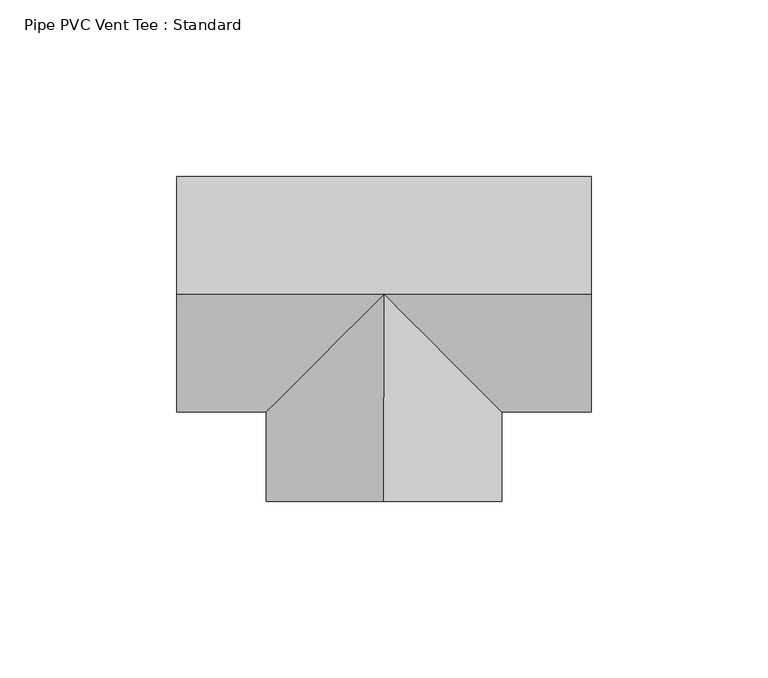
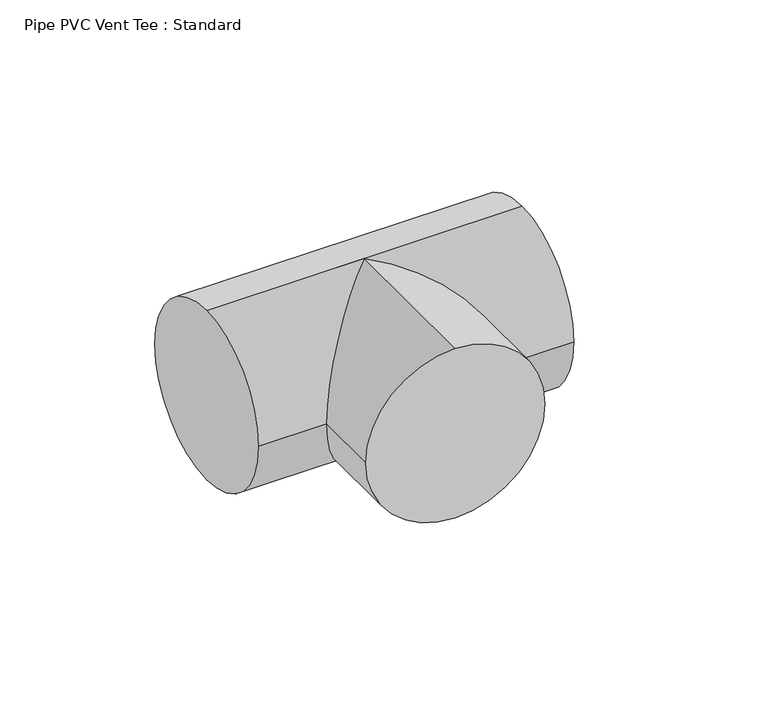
"""IFC4 building model written with IfcOpenShell, lengths in millimetres: pipe fitting geometry, Pipe PVC Vent Tee : Standard."""

from ifc_helpers import new_model, si_unit, frame, origin, place, context, project, spatial, circle_curve, ellipse_curve, source, transform, mapped, element, save
from ifc_brep_helpers import plane_surface, cylinder_surface, advanced_brep


def pipe_pvc_vent_tee_standard_361e4660(model_context):
    return source(origin(), model_context, "Body", "AdvancedBrep", [
        advanced_brep(
        [(-58.7375, 0.0, 33.3375), (-58.7375, 33.3375, 0.0), (-58.7375, 0.0, -33.3375), (-58.7375, -33.3375, 0.0), (58.7375, 0.0, 33.3375), (58.7375, -33.3375, 0.0), (58.7375, 0.0, -33.3375), (58.7375, 33.3375, 0.0), (0.0, 0.0, 33.3375), (0.0, 0.0, -33.3375), (-33.3512743, -33.3375, 0.0), (33.3237314, -33.3375, 0.0), (-0.024264, -58.737495, 33.3375), (-33.3617612, -58.7237235, 0.0), (-0.024264, -58.737495, -33.3375), (33.3132332, -58.7512664, 0.0)],
        [
            (0, 1, circle_curve(frame((-58.7375, 0.0, 0.0), z_axis=(-1.0, 0.0, 0.0), x_axis=(0.0, 1.0, 0.0)), 33.3375)),
            (1, 2, circle_curve(frame((-58.7375, 0.0, 0.0), z_axis=(-1.0, 0.0, 0.0), x_axis=(0.0, 1.0, 0.0)), 33.3375)),
            (2, 3, circle_curve(frame((-58.7375, 0.0, 0.0), z_axis=(-1.0, 0.0, 0.0), x_axis=(0.0, 1.0, 0.0)), 33.3375)),
            (3, 0, circle_curve(frame((-58.7375, 0.0, 0.0), z_axis=(-1.0, 0.0, 0.0), x_axis=(0.0, 1.0, 0.0)), 33.3375)),
            (4, 5, circle_curve(frame((58.7375, 0.0, 0.0), z_axis=(1.0, 0.0, 0.0), x_axis=(0.0, 1.0, 0.0)), 33.3375)),
            (5, 6, circle_curve(frame((58.7375, 0.0, 0.0), z_axis=(1.0, 0.0, 0.0), x_axis=(0.0, 1.0, 0.0)), 33.3375)),
            (6, 7, circle_curve(frame((58.7375, 0.0, 0.0), z_axis=(1.0, 0.0, 0.0), x_axis=(0.0, 1.0, 0.0)), 33.3375)),
            (7, 4, circle_curve(frame((58.7375, 0.0, 0.0), z_axis=(1.0, 0.0, 0.0), x_axis=(0.0, 1.0, 0.0)), 33.3375)),
            (0, 8),
            (8, 4),
            (7, 1),
            (6, 9),
            (9, 2),
            (9, 10, ellipse_curve(frame((0.0, 0.0, 0.0), z_axis=(-0.7069607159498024, 0.7072528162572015, 0.0), x_axis=(-0.7072528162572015, -0.7069607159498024, 0.0)), 47.1560855, 33.3375)),
            (10, 3),
            (5, 11),
            (11, 9, ellipse_curve(frame((0.0, 0.0, 0.0), z_axis=(0.7072528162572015, 0.7069607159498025, 0.0), x_axis=(-0.7069607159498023, 0.7072528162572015, 0.0)), 47.1366098, 33.3375)),
            (10, 8, ellipse_curve(frame((0.0, 0.0, 0.0), z_axis=(-0.7069607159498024, 0.7072528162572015, 0.0), x_axis=(-0.7072528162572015, -0.7069607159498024, 0.0)), 47.1560855, 33.3375)),
            (8, 11, ellipse_curve(frame((0.0, 0.0, 0.0), z_axis=(0.7072528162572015, 0.7069607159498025, 0.0), x_axis=(-0.7069607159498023, 0.7072528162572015, 0.0)), 47.1366098, 33.3375)),
            (12, 13, circle_curve(frame((-0.024264, -58.737495, 0.0), z_axis=(-0.0004130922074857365, -0.9999999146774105, 0.0), x_axis=(0.9999999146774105, -0.0004130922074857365, 0.0)), 33.3375)),
            (13, 14, circle_curve(frame((-0.024264, -58.737495, 0.0), z_axis=(-0.0004130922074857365, -0.9999999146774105, 0.0), x_axis=(0.9999999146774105, -0.0004130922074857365, 0.0)), 33.3375)),
            (14, 15, circle_curve(frame((-0.024264, -58.737495, 0.0), z_axis=(-0.0004130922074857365, -0.9999999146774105, 0.0), x_axis=(0.9999999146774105, -0.0004130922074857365, 0.0)), 33.3375)),
            (15, 12, circle_curve(frame((-0.024264, -58.737495, 0.0), z_axis=(-0.0004130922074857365, -0.9999999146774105, 0.0), x_axis=(0.9999999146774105, -0.0004130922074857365, 0.0)), 33.3375)),
            (15, 11),
            (8, 12),
            (14, 9),
            (13, 10),
        ],
        [
            plane_surface(frame((-58.7375, 0.0, 0.0), z_axis=(-1.0, 0.0, 0.0), x_axis=(0.0, 0.0, 1.0))),
            plane_surface(frame((58.7375, 0.0, 0.0), z_axis=(1.0, 0.0, 0.0), x_axis=(0.0, 0.0, 1.0))),
            cylinder_surface(frame((-58.7375, 0.0, 0.0), z_axis=(-1.0, 0.0, 0.0), x_axis=(0.0, 1.0, 0.0)), 33.3375),
            plane_surface(frame((-0.024264, -58.737495, 0.0), z_axis=(-0.0004130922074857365, -0.9999999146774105, 0.0), x_axis=(0.0, 0.0, 1.0))),
            cylinder_surface(frame((0.0, 0.0, 0.0), z_axis=(0.0004130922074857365, 0.9999999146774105, 0.0), x_axis=(0.9999999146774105, -0.0004130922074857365, 0.0)), 33.3375),
        ],
        [
            (0, [[1, 2, 3, 4]]),
            (1, [[5, 6, 7, 8]]),
            (2, [[-1, 9, 10, -8, 11]]),
            (2, [[-2, -11, -7, 12, 13]]),
            (2, [[-3, -13, 14, 15]]),
            (2, [[-6, 16, 17, -12]]),
            (2, [[-4, -15, 18, -9]]),
            (2, [[-5, -10, 19, -16]]),
            (3, [[20, 21, 22, 23]]),
            (4, [[-23, 24, -19, 25]]),
            (4, [[-22, 26, -17, -24]]),
            (4, [[-21, 27, -14, -26]]),
            (4, [[-20, -25, -18, -27]]),
        ],
    ),
        advanced_brep(
        [(-58.7375, 0.0, 33.3375), (-58.7375, 33.3375, 0.0), (-58.7375, 0.0, -33.3375), (-58.7375, -33.3375, 0.0), (58.7375, 0.0, 33.3375), (58.7375, -33.3375, 0.0), (58.7375, 0.0, -33.3375), (58.7375, 33.3375, 0.0), (0.0, 0.0, 33.3375), (0.0, 0.0, -33.3375), (-33.3512743, -33.3375, 0.0), (33.3237314, -33.3375, 0.0), (-0.024264, -58.737495, 33.3375), (-33.3617612, -58.7237235, 0.0), (-0.024264, -58.737495, -33.3375), (33.3132332, -58.7512664, 0.0)],
        [
            (0, 1, circle_curve(frame((-58.7375, 0.0, 0.0), z_axis=(-1.0, 0.0, 0.0), x_axis=(0.0, 1.0, 0.0)), 33.3375)),
            (1, 2, circle_curve(frame((-58.7375, 0.0, 0.0), z_axis=(-1.0, 0.0, 0.0), x_axis=(0.0, 1.0, 0.0)), 33.3375)),
            (2, 3, circle_curve(frame((-58.7375, 0.0, 0.0), z_axis=(-1.0, 0.0, 0.0), x_axis=(0.0, 1.0, 0.0)), 33.3375)),
            (3, 0, circle_curve(frame((-58.7375, 0.0, 0.0), z_axis=(-1.0, 0.0, 0.0), x_axis=(0.0, 1.0, 0.0)), 33.3375)),
            (4, 5, circle_curve(frame((58.7375, 0.0, 0.0), z_axis=(1.0, 0.0, 0.0), x_axis=(0.0, 1.0, 0.0)), 33.3375)),
            (5, 6, circle_curve(frame((58.7375, 0.0, 0.0), z_axis=(1.0, 0.0, 0.0), x_axis=(0.0, 1.0, 0.0)), 33.3375)),
            (6, 7, circle_curve(frame((58.7375, 0.0, 0.0), z_axis=(1.0, 0.0, 0.0), x_axis=(0.0, 1.0, 0.0)), 33.3375)),
            (7, 4, circle_curve(frame((58.7375, 0.0, 0.0), z_axis=(1.0, 0.0, 0.0), x_axis=(0.0, 1.0, 0.0)), 33.3375)),
            (0, 8),
            (8, 4),
            (7, 1),
            (6, 9),
            (9, 2),
            (9, 10, ellipse_curve(frame((0.0, 0.0, 0.0), z_axis=(-0.7069607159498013, 0.7072528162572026, 0.0), x_axis=(-0.7072528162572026, -0.7069607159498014, 0.0)), 47.1560855, 33.3375)),
            (10, 3),
            (5, 11),
            (11, 9, ellipse_curve(frame((0.0, 0.0, 0.0), z_axis=(0.7072528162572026, 0.7069607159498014, 0.0), x_axis=(-0.7069607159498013, 0.7072528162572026, 0.0)), 47.1366098, 33.3375)),
            (10, 8, ellipse_curve(frame((0.0, 0.0, 0.0), z_axis=(-0.7069607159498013, 0.7072528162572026, 0.0), x_axis=(-0.7072528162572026, -0.7069607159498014, 0.0)), 47.1560855, 33.3375)),
            (8, 11, ellipse_curve(frame((0.0, 0.0, 0.0), z_axis=(0.7072528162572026, 0.7069607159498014, 0.0), x_axis=(-0.7069607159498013, 0.7072528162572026, 0.0)), 47.1366098, 33.3375)),
            (12, 13, circle_curve(frame((-0.024264, -58.737495, 0.0), z_axis=(-0.0004130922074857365, -0.9999999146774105, 0.0), x_axis=(0.9999999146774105, -0.0004130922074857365, 0.0)), 33.3375)),
            (13, 14, circle_curve(frame((-0.024264, -58.737495, 0.0), z_axis=(-0.0004130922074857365, -0.9999999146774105, 0.0), x_axis=(0.9999999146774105, -0.0004130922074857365, 0.0)), 33.3375)),
            (14, 15, circle_curve(frame((-0.024264, -58.737495, 0.0), z_axis=(-0.0004130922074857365, -0.9999999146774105, 0.0), x_axis=(0.9999999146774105, -0.0004130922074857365, 0.0)), 33.3375)),
            (15, 12, circle_curve(frame((-0.024264, -58.737495, 0.0), z_axis=(-0.0004130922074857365, -0.9999999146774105, 0.0), x_axis=(0.9999999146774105, -0.0004130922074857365, 0.0)), 33.3375)),
            (15, 11),
            (8, 12),
            (14, 9),
            (13, 10),
        ],
        [
            plane_surface(frame((-58.7375, 0.0, 0.0), z_axis=(-1.0, 0.0, 0.0), x_axis=(0.0, 0.0, 1.0))),
            plane_surface(frame((58.7375, 0.0, 0.0), z_axis=(1.0, 0.0, 0.0), x_axis=(0.0, 0.0, 1.0))),
            cylinder_surface(frame((-58.7375, 0.0, 0.0), z_axis=(-1.0, 0.0, 0.0), x_axis=(0.0, 1.0, 0.0)), 33.3375),
            plane_surface(frame((-0.024264, -58.737495, 0.0), z_axis=(-0.0004130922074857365, -0.9999999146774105, 0.0), x_axis=(0.0, 0.0, 1.0))),
            cylinder_surface(frame((0.0, 0.0, 0.0), z_axis=(0.0004130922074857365, 0.9999999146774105, 0.0), x_axis=(0.9999999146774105, -0.0004130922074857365, 0.0)), 33.3375),
        ],
        [
            (0, [[1, 2, 3, 4]]),
            (1, [[5, 6, 7, 8]]),
            (2, [[-1, 9, 10, -8, 11]]),
            (2, [[-2, -11, -7, 12, 13]]),
            (2, [[-3, -13, 14, 15]]),
            (2, [[-6, 16, 17, -12]]),
            (2, [[-4, -15, 18, -9]]),
            (2, [[-5, -10, 19, -16]]),
            (3, [[20, 21, 22, 23]]),
            (4, [[-23, 24, -19, 25]]),
            (4, [[-22, 26, -17, -24]]),
            (4, [[-21, 27, -14, -26]]),
            (4, [[-20, -25, -18, -27]]),
        ],
    ),
    ])


if __name__ == "__main__":
    model = new_model("IFC4")
    model_context = context("Model", 3, world=origin())
    ifc_project = project(units=[si_unit("LENGTHUNIT", "METRE", prefix="MILLI")], contexts=[model_context])
    site = spatial("IfcSite", under=ifc_project)
    building = spatial("IfcBuilding", under=site)
    placement = place(None, origin())
    pipe_pvc_vent_tee_standard_shape = pipe_pvc_vent_tee_standard_361e4660(model_context)
    element("IfcPipeFitting", 1, ObjectType="Pipe PVC Vent Tee : Standard", at=placement, inside=building, context=model_context, shape_type="MappedRepresentation", body=[
        mapped(pipe_pvc_vent_tee_standard_shape, transform((0.0, 0.0, 0.0), x_axis=(1.0, 0.0, 0.0), y_axis=(0.0, 1.0, 0.0), z_axis=(0.0, 0.0, 1.0))),
    ])
    save(model, "model.ifc")
